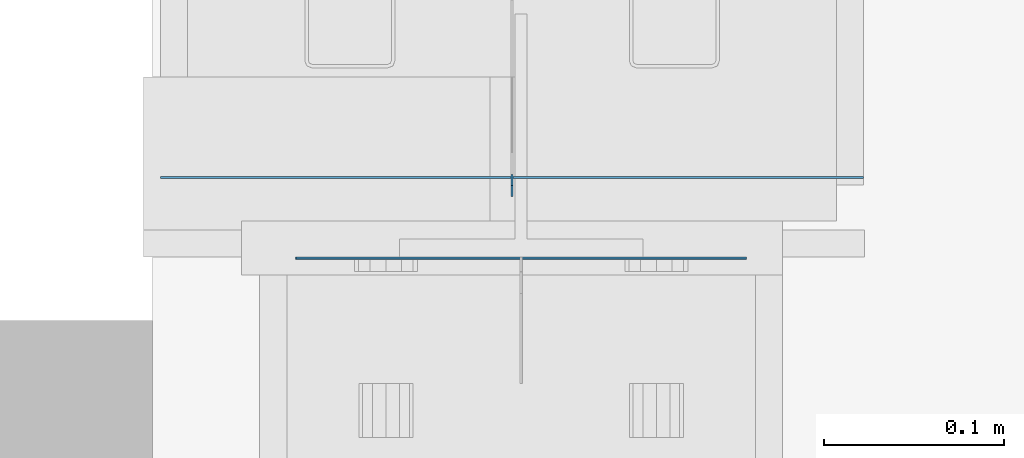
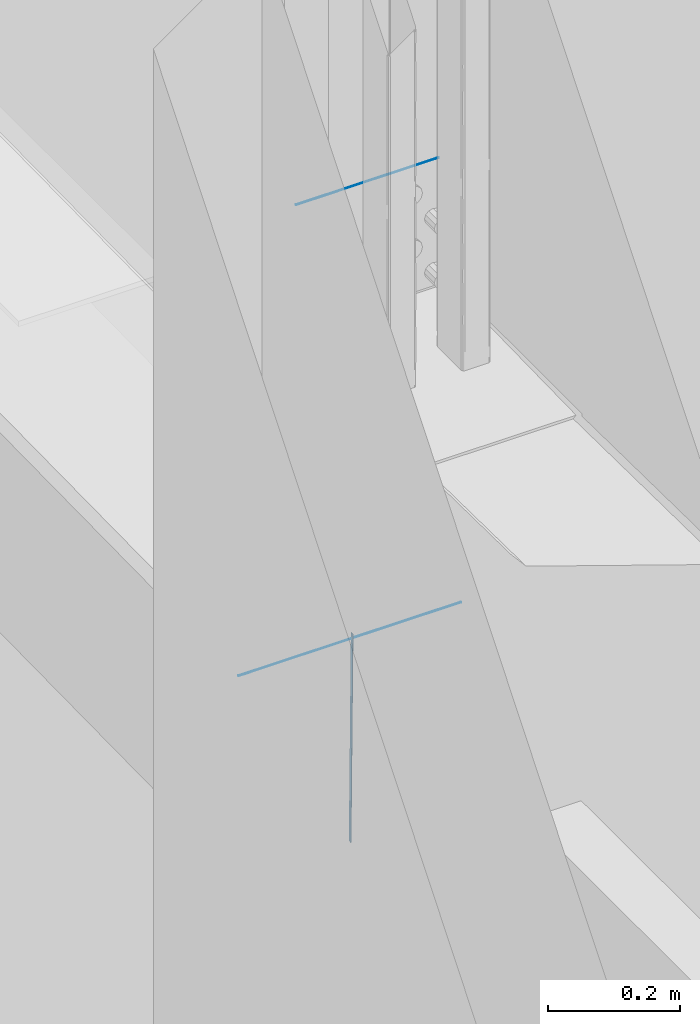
# One storey, part 39 of 186: 3 beams.
"""IFC4X3_ADD2 building model written with IfcOpenShell, lengths in millimetres."""

from ifc_helpers import new_model, si_unit, direction, frame, frame_2d, origin_with_axes, place, context, subcontext, project, spatial, rectangle, extrude, material, element, save


model = new_model("IFC4X3_ADD2")

# Units and contexts
model_context = context("Model", 3, precision=1e-05, world=origin_with_axes(), true_north=direction((0.0, 1.0)))
body_context = subcontext(model_context, "Body", "Model", "MODEL_VIEW")
ifc_project = project(units=[si_unit("LENGTHUNIT", "METRE", prefix="MILLI"), si_unit("AREAUNIT", "SQUARE_METRE"), si_unit("VOLUMEUNIT", "CUBIC_METRE"), si_unit("PLANEANGLEUNIT", "RADIAN"), si_unit("TIMEUNIT", "SECOND"), si_unit("MASSUNIT", "GRAM")], contexts=[model_context])

# Site, building, storey
site_placement = place(None, origin_with_axes())
site = spatial("IfcSite", under=ifc_project, at=site_placement, Name="Site", CompositionType="ELEMENT")
building_placement = place(site_placement, origin_with_axes())
building = spatial("IfcBuilding", under=site, at=building_placement, Name="IFC Building Story")
storey_placement = place(building_placement, frame((0.0, 0.0, 4370.0), z_axis=(0.0, 0.0, 1.0), x_axis=(1.0, 0.0, 0.0)))
storey = spatial("IfcBuildingStorey", under=building, at=storey_placement, Name="ETAGE 10 (1)", Elevation=4370.0)

# Beams
ifc_material_1 = material(Name="STEEL/Accessory_invisible 261")
beam_1_placement = place(storey_placement, frame((33401.6886988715, 18019.8149790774, 3026.95215019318), z_axis=(-1.0, 0.0, 0.0), x_axis=(0.0, -0.01553280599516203, 0.9998793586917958)))
element("IfcBeam", 1, at=beam_1_placement, inside=storey, material=ifc_material_1, Name="BEK4", ObjectType="6*1 4", context=body_context, shape_type="SweptSolid", body=[
    extrude(rectangle(XDim=390.000000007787, YDim=5.99999999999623, at=frame_2d((0.0, 5.95523630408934e-12), x_axis=(1.0, 0.0))), origin_with_axes(), (0.0, 0.0, 1.0), 1.0),
])
beam_2_placement = place(storey_placement, frame((33531.189, 17979.4989318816, 4079.50041961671), z_axis=(-1.0, 0.0, 0.0), x_axis=(0.0, 1.0, 0.0)))
element("IfcBeam", 2, at=beam_2_placement, inside=storey, material=ifc_material_1, Name="53", ObjectType="1*1 3", context=body_context, shape_type="SweptSolid", body=[
    extrude(rectangle(XDim=0.9999999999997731, YDim=0.9999999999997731, at=frame_2d((0.0, 5.95523630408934e-12), x_axis=(1.0, 0.0))), origin_with_axes(), (0.0, 0.0, 1.0), 250.0),
])
ifc_material_2 = material(Name="STEEL/Accessory_invisible")
beam_3_placement = place(storey_placement, frame((33596.08869887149, 18024.1742599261, 3206.54157573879), z_axis=(-1.0, 0.0, 0.0), x_axis=(0.0, 1.0, 0.0)))
element("IfcBeam", 3, at=beam_3_placement, inside=storey, material=ifc_material_2, Name="ZW3", ObjectType="1*1 3", context=body_context, shape_type="SweptSolid", body=[
    extrude(rectangle(XDim=0.9999999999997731, YDim=0.9999999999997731, at=frame_2d((0.0, 5.95523630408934e-12), x_axis=(1.0, 0.0))), origin_with_axes(), (0.0, 0.0, 1.0), 389.8999999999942),
])

save(model, "model.ifc")
